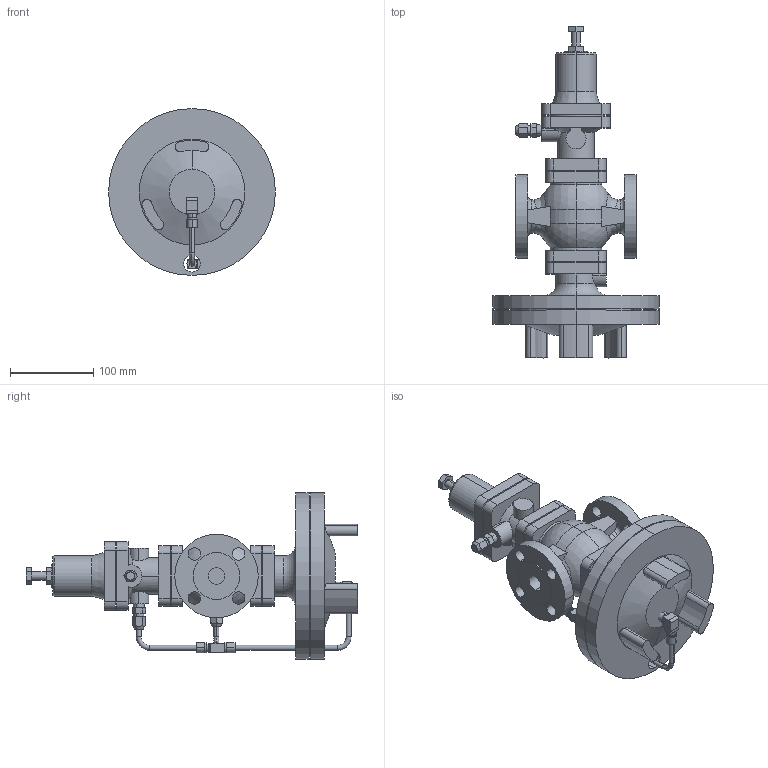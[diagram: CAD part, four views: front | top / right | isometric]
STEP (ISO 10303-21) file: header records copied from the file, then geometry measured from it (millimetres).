
FILE_DESCRIPTION (( 'STEP AP203' ), '1' );
FILE_NAME ('GPR-2000 JIS20K 20A.STEP', '2025-12-05T01:54:02', ( '' ), ( '' ), 'SwSTEP 2.0', 'SolidWorks 2024', '' );
FILE_SCHEMA (( 'CONFIG_CONTROL_DESIGN' ));
Length unit declared in the file: millimetre
Products named in the file (8): Joint; Pipe B 15-20A; GPR-2000 JIS20K 20A; Pipe C 15-20A; Elbow; GPR-2000 Body Assy EN 20A; Tee; Pipe A 15-25A
Assembly tree (9 placements, depth 2):
  GPR-2000 JIS20K 20A
    GPR-2000 Body Assy EN 20A
    Tee
    Joint  x3
    Pipe B 15-20A
    Pipe A 15-25A
    Elbow
    Pipe C 15-20A
Bounding box: 200 x 397.9 x 200 mm (x, y, z)
Volume: 2623553.6 mm3; surface area: 292047.1 mm2
Topology: 9 solids, 9 shells, 410 faces, 1028 edges, 684 vertices
Faces by surface type: plane 187, cylinder 172, cone 27, torus 16, sphere 4, bspline 4
Entity records: 13875 total; most frequent: CARTESIAN_POINT 4119, DIRECTION 1937, ORIENTED_EDGE 1788, EDGE_CURVE 894, AXIS2_PLACEMENT_3D 752, VERTEX_POINT 588, VECTOR 433, LINE 433
